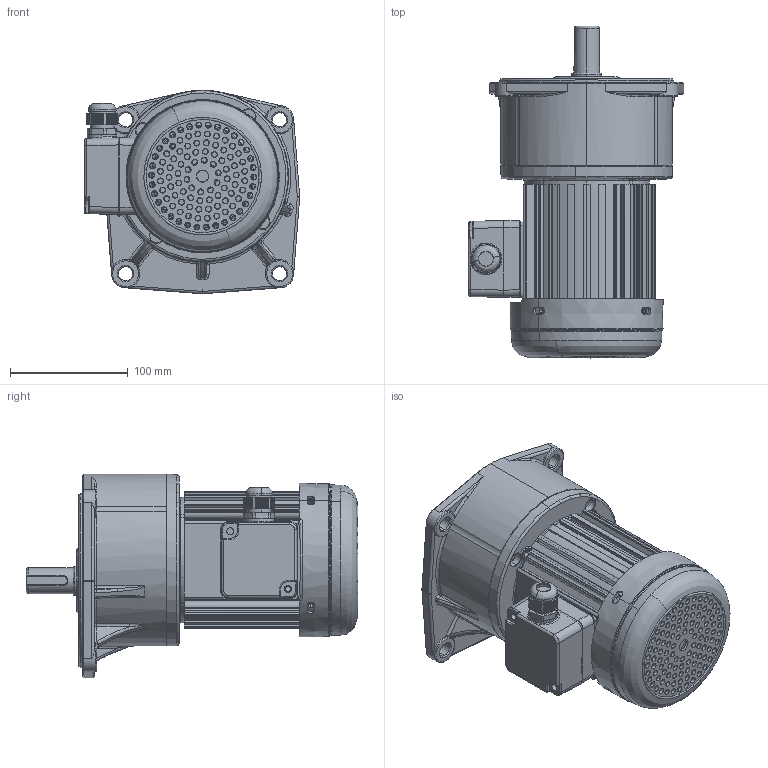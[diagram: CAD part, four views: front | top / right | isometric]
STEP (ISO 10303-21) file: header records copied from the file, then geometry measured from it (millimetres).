
FILE_DESCRIPTION (( 'STEP AP203' ), '1' );
FILE_NAME ('×°ÅäÌå9.STEP', '2020-04-17T02:10:59', ( '' ), ( '' ), 'SwSTEP 2.0', 'SolidWorks 2019', '' );
FILE_SCHEMA (( 'CONFIG_CONTROL_DESIGN' ));
Length unit declared in the file: millimetre
Products named in the file (3): 2#蕾宒熬厒ん; 蚾饜极9; 100W饜2#蕾宒
Assembly tree (2 placements, depth 2):
  蚾饜极9
    100W饜2#蕾宒
    2#蕾宒熬厒ん
Bounding box: 182.98 x 282.06 x 172.99 mm (x, y, z)
Volume: 1308119.9 mm3; surface area: 416847.7 mm2
Topology: 1 solids, 10 shells, 2610 faces, 6890 edges, 4306 vertices
Faces by surface type: cylinder 757, bspline 736, plane 637, torus 251, cone 185, sphere 44
Entity records: 127103 total; most frequent: CARTESIAN_POINT 71314, ORIENTED_EDGE 13598, DIRECTION 8464, EDGE_CURVE 6829, VERTEX_POINT 4310, B_SPLINE_CURVE_WITH_KNOTS 3750, AXIS2_PLACEMENT_3D 3626, EDGE_LOOP 2988
